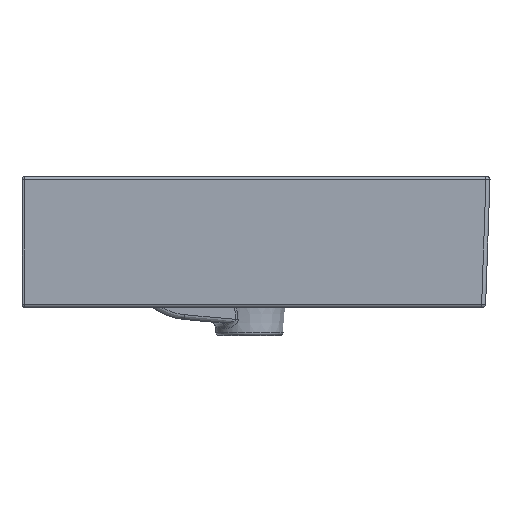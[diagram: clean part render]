
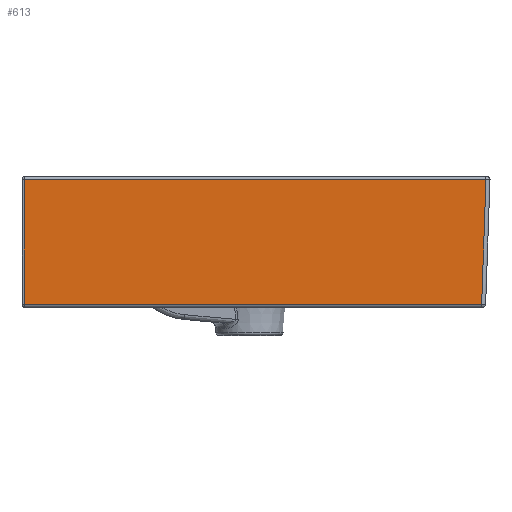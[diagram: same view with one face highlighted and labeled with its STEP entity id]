
A CAD part, left-side view. The second image highlights one B-rep face of the part: STEP entity #613.
In plain terms, the highlighted planar face has unit normal (-1, 0, -0.018).
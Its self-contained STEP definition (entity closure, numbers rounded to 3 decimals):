
#613=ADVANCED_FACE('',(#1126),#1065,.F.);
#1065=PLANE('',#7349);
#1126=FACE_OUTER_BOUND('',#1592,.T.);
#1592=EDGE_LOOP('',(#3373,#3374,#3375,#3376));
#2149=LINE('',#15063,#2306);
#2150=LINE('',#15066,#2307);
#2151=LINE('',#15068,#2308);
#2152=LINE('',#15070,#2309);
#2306=VECTOR('',#8046,1.);
#2307=VECTOR('',#8047,1.);
#2308=VECTOR('',#8048,1.);
#2309=VECTOR('',#8049,1.);
#3373=ORIENTED_EDGE('',*,*,#6219,.T.);
#3374=ORIENTED_EDGE('',*,*,#6220,.T.);
#3375=ORIENTED_EDGE('',*,*,#6221,.T.);
#3376=ORIENTED_EDGE('',*,*,#6222,.T.);
#5531=VERTEX_POINT('',#15064);
#5532=VERTEX_POINT('',#15065);
#5533=VERTEX_POINT('',#15067);
#5534=VERTEX_POINT('',#15069);
#6219=EDGE_CURVE('',#5531,#5532,#2149,.T.);
#6220=EDGE_CURVE('',#5532,#5533,#2150,.T.);
#6221=EDGE_CURVE('',#5533,#5534,#2151,.T.);
#6222=EDGE_CURVE('',#5534,#5531,#2152,.T.);
#7349=AXIS2_PLACEMENT_3D('',#15071,#8050,#8051);
#8046=DIRECTION('',(0.,1.,0.));
#8047=DIRECTION('',(0.017,0.,-1.));
#8048=DIRECTION('',(0.,-1.,0.));
#8049=DIRECTION('',(-0.017,-0.035,0.999));
#8050=DIRECTION('',(1.,0.,0.017));
#8051=DIRECTION('',(0.017,0.,-1.));
#15063=CARTESIAN_POINT('',(-249.947,-232.5,-3.052));
#15064=CARTESIAN_POINT('',(-249.947,-460.893,-3.052));
#15065=CARTESIAN_POINT('',(-249.947,-2.,-3.052));
#15066=CARTESIAN_POINT('',(-250.,-2.,0.));
#15067=CARTESIAN_POINT('',(-247.782,-2.,-127.052));
#15068=CARTESIAN_POINT('',(-247.782,-27.3,-127.052));
#15069=CARTESIAN_POINT('',(-247.782,-456.563,-127.052));
#15070=CARTESIAN_POINT('',(-249.861,-460.722,-7.967));
#15071=CARTESIAN_POINT('',(-250.,-232.5,0.));
